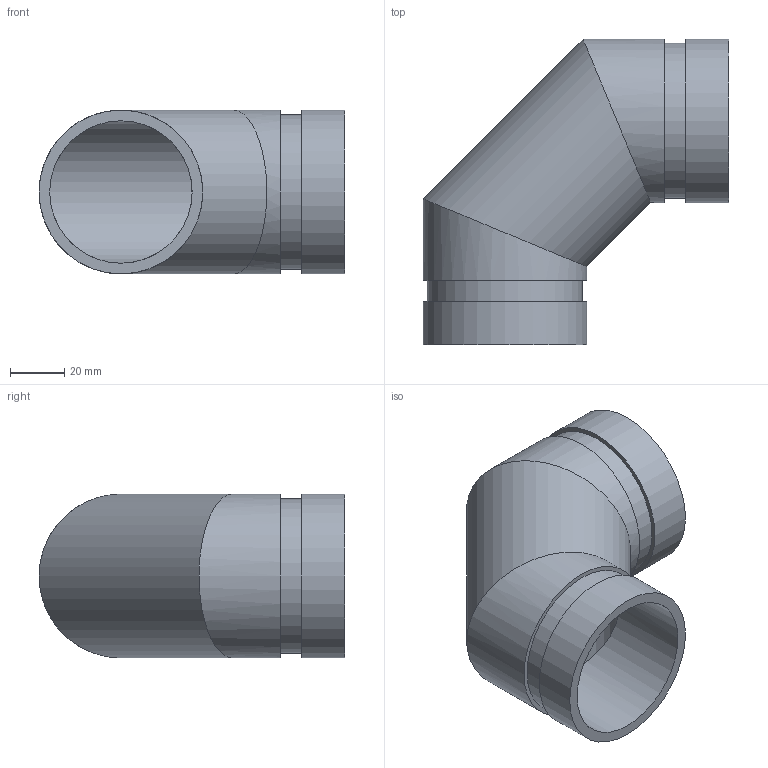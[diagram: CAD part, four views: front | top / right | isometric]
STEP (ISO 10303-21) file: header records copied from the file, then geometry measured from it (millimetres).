
FILE_DESCRIPTION(/* description */ ('VIC 90 DEG ELBOW FABRICATED No 10 SWS (OGS)','CAx-IF Rec.Pracs.---Representation and Presentation of Product Manufacturing Information (PMI)---4.0---2014-10-13'),/* implementation_level */ '2;1');
FILE_NAME(/* name */ 'C:\Users\kkamble\AppData\Roaming\Autodesk\ApplicationPlugins\Back Up\Victaulic_IPS_Elbow 90 Deg_No 10 SWS (OGS)\Victaulic_IPS_Elbow 90 Deg_No 10 SWS (OGS)_2 (50).stp',/* time_stamp */ '2020-09-16T22:17:26+06:00',/* author */ ('cgray'),/* organization */ ('Victaulic'),/* preprocessor_version */ 'ST-DEVELOPER v17.2',/* originating_system */ 'Autodesk Inventor 2019',/* authorisation */ '');
FILE_SCHEMA (('AP242_MANAGED_MODEL_BASED_3D_ENGINEERING_MIM_LF { 1 0 10303 442 1 1 4 }'));
Length unit declared in the file: inch
Products named in the file (1): 10 SWS-02.0
Bounding box: 112.71 x 112.71 x 60.33 mm (x, y, z)
Volume: 93035.3 mm3; surface area: 52350.2 mm2
Topology: 1 solids, 1 shells, 16 faces, 38 edges, 28 vertices
Faces by surface type: cylinder 10, plane 6
Full cylindrical faces by diameter (mm): 52.502 x3, 57.15 x2, 60.325 x5
Entity records: 646 total; most frequent: DIRECTION 126, CARTESIAN_POINT 100, ORIENTED_EDGE 76, AXIS2_PLACEMENT_3D 58, EDGE_CURVE 38, VERTEX_POINT 28, EDGE_LOOP 22, STYLED_ITEM 18
